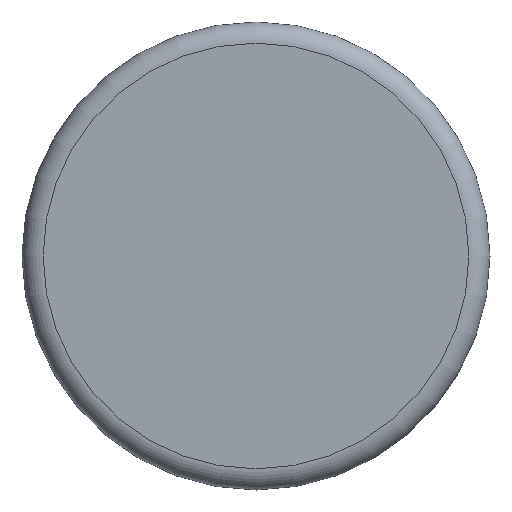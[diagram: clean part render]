
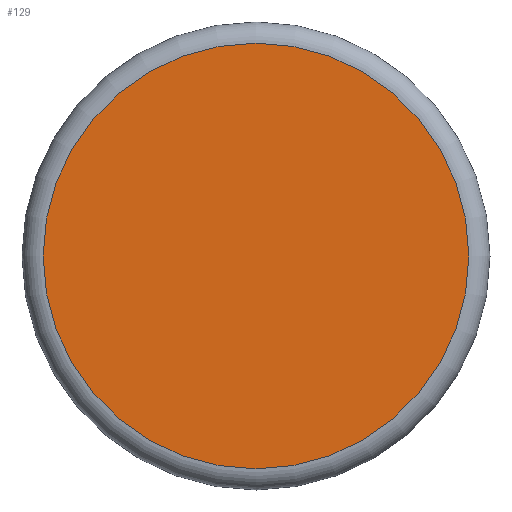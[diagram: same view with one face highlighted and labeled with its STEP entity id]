
A CAD part, left-side view. The second image highlights one B-rep face of the part: STEP entity #129.
In plain terms, the highlighted planar face has unit normal (-1, 0, 0).
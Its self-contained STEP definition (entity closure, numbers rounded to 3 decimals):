
#17=PLANE('',#164);
#28=FACE_OUTER_BOUND('',#35,.T.);
#35=EDGE_LOOP('',(#104,#105));
#48=CIRCLE('',#165,2.515);
#49=CIRCLE('',#166,2.515);
#63=VERTEX_POINT('',#247);
#64=VERTEX_POINT('',#248);
#79=EDGE_CURVE('',#63,#64,#48,.T.);
#80=EDGE_CURVE('',#64,#63,#49,.T.);
#104=ORIENTED_EDGE('',*,*,#79,.F.);
#105=ORIENTED_EDGE('',*,*,#80,.F.);
#129=ADVANCED_FACE('',(#28),#17,.T.);
#164=AXIS2_PLACEMENT_3D('',#246,#201,#202);
#165=AXIS2_PLACEMENT_3D('',#249,#203,#204);
#166=AXIS2_PLACEMENT_3D('',#250,#205,#206);
#201=DIRECTION('center_axis',(-1.,0.,0.));
#202=DIRECTION('ref_axis',(0.,0.,1.));
#203=DIRECTION('center_axis',(1.,0.,0.));
#204=DIRECTION('ref_axis',(0.,0.,-1.));
#205=DIRECTION('center_axis',(1.,0.,0.));
#206=DIRECTION('ref_axis',(0.,0.,-1.));
#246=CARTESIAN_POINT('Origin',(0.,2.515,0.));
#247=CARTESIAN_POINT('',(0.,2.515,0.));
#248=CARTESIAN_POINT('',(0.,0.,2.515));
#249=CARTESIAN_POINT('Origin',(0.,0.,0.));
#250=CARTESIAN_POINT('Origin',(0.,0.,0.));
